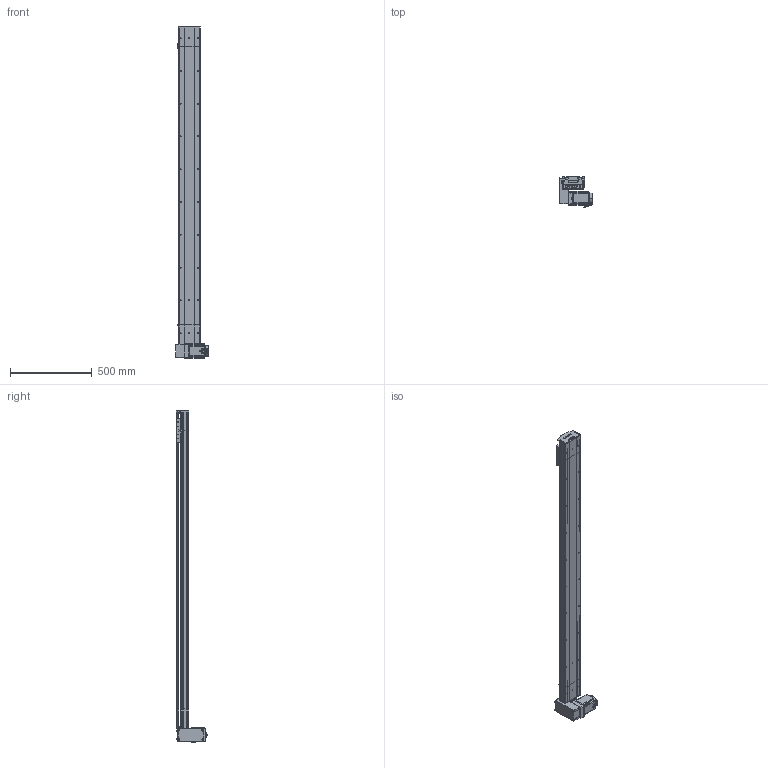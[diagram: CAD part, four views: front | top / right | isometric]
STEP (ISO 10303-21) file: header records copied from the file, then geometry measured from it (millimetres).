
FILE_DESCRIPTION (( 'STEP AP214' ), '1' );
FILE_NAME ('D14 TBH RU S1700.STEP', '2010-06-29T14:06:21', ( 'Conseil Régional Haute-Normandie' ), ( 'Conseil Régional Haute-Normandie' ), 'SwSTEP 2.0', 'SolidWorks 2010', '' );
FILE_SCHEMA (( 'AUTOMOTIVE_DESIGN' ));
Length unit declared in the file: millimetre
Products named in the file (39): avant 90BLDC100A-640; plaque de  bout tail D14_Default; poulie tail_Default; D14 TBH RU S1700; vis M5 L8 90°_Default; Rail + couroie D14 Course 1700 ; Couroie_Default; D14 TB H RU_Default; corp head D14_Default; corps 90BLDC100A-640; D14 couroie L1700_Default; plaque de  bout head D14 RU_Default; Arbre+rail head D14; codeur 90BLDC100-640; tete d''axe haut D14; Cache_Default; corpl tail D14_Default; Tail D14B_Default; couvercle D14 head_Default; vis M5 L16_Default; couvercle D14 course L1700_Default; Cache arbre_Default; renvoi RH_Default; couroie 2_Default; vis M5 L12_Default; guide D14; Chariot D14; chariot D14B_Default; Cvis M5 L70_Default; couvercle D14_Default; Arbre+rail tail D14; Moteur motionking 90BLDC100A-640; poulie head_Default; corpl 1700_Default; vis M5 L5_Default; Conecteur2_Default; Vis M5 L16-2_Default; Conecteur_Default; Plaque racord D14_Default
Assembly tree (68 placements, depth 4):
  D14 TBH RU S1700
    D14 TB H RU_Default
      vis M5 L12_Default  x12
      Cvis M5 L70_Default  x4
      Moteur motionking 90BLDC100A-640
        Conecteur_Default
        codeur 90BLDC100-640
        corps 90BLDC100A-640
        avant 90BLDC100A-640
        Conecteur2_Default
      vis M5 L5_Default  x2
      corp head D14_Default
      couvercle D14 head_Default
      Vis M5 L16-2_Default  x4
      renvoi RH_Default
      Cache arbre_Default
      Cache_Default  x2
      Arbre+rail head D14
      poulie head_Default
      couroie 2_Default
      Plaque racord D14_Default
      plaque de  bout head D14 RU_Default
    D14 couroie L1700_Default
      Rail + couroie D14 Course 1700 
      couvercle D14 course L1700_Default
      corpl 1700_Default
    chariot D14B_Default
      vis M5 L12_Default  x4
      Chariot D14
      guide D14  x2
    Tail D14B_Default
      plaque de  bout tail D14_Default
      vis M5 L8 90°_Default  x2
      Arbre+rail tail D14
      vis M5 L12_Default  x4
      couvercle D14_Default
      poulie tail_Default
      vis M5 L16_Default  x2
      corpl tail D14_Default
      tete d''axe haut D14
      Couroie_Default
Bounding box: 207.2 x 191.1 x 2025.75 mm (x, y, z)
Volume: 8215560 mm3; surface area: 2831835.5 mm2
Topology: 92 solids, 92 shells, 2661 faces, 6503 edges, 4194 vertices
Faces by surface type: plane 1597, cylinder 751, bspline 136, torus 89, cone 84, sphere 4
Entity records: 80108 total; most frequent: CARTESIAN_POINT 23697, ORIENTED_EDGE 9866, DIRECTION 9680, EDGE_CURVE 4933, VECTOR 3298, LINE 3298, VERTEX_POINT 3244, AXIS2_PLACEMENT_3D 3191
